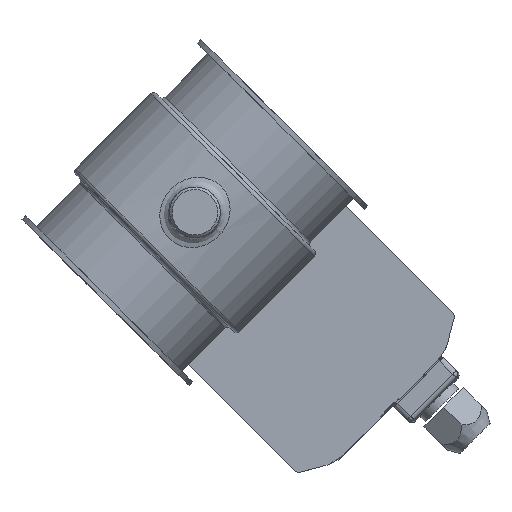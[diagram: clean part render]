
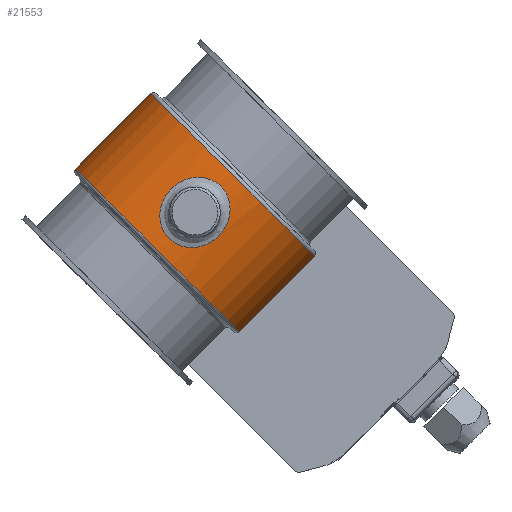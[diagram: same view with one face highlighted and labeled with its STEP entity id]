
A CAD part, top view. The second image highlights one B-rep face of the part: STEP entity #21553.
In plain terms, the highlighted cylindrical face has radius 45.5 mm (diameter 91 mm), a full revolution.
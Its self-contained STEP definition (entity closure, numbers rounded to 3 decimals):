
#21444=CARTESIAN_POINT('',(-53.695,50.041,43.545));
#21445=VERTEX_POINT('',#21444);
#21455=CARTESIAN_POINT('',(-53.697,50.041,43.543));
#21456=CARTESIAN_POINT('',(-53.697,50.041,43.543));
#21457=CARTESIAN_POINT('',(-53.697,50.041,43.543));
#21458=CARTESIAN_POINT('',(-53.697,50.041,43.543));
#21459=CARTESIAN_POINT('',(-53.697,47.872,43.543));
#21460=CARTESIAN_POINT('',(-52.787,43.526,43.834));
#21461=CARTESIAN_POINT('',(-49.03,38.344,44.78));
#21462=CARTESIAN_POINT('',(-43.58,35.426,45.528));
#21463=CARTESIAN_POINT('',(-37.455,35.417,45.532));
#21464=CARTESIAN_POINT('',(-31.99,38.327,44.782));
#21465=CARTESIAN_POINT('',(-28.646,42.923,43.945));
#21466=CARTESIAN_POINT('',(-27.258,47.815,43.532));
#21467=CARTESIAN_POINT('',(-27.255,52.242,43.529));
#21468=CARTESIAN_POINT('',(-28.83,57.849,44.004));
#21469=CARTESIAN_POINT('',(-32.539,62.232,44.908));
#21470=CARTESIAN_POINT('',(-38.116,64.658,45.53));
#21471=CARTESIAN_POINT('',(-43.556,64.662,45.529));
#21472=CARTESIAN_POINT('',(-49.013,61.747,44.782));
#21473=CARTESIAN_POINT('',(-52.779,56.583,43.837));
#21474=CARTESIAN_POINT('',(-53.697,52.21,43.543));
#21475=CARTESIAN_POINT('',(-53.697,50.041,43.543));
#21476=B_SPLINE_CURVE_WITH_KNOTS('',3,(#21455,#21456,#21457,#21458,#21459,#21460,#21461,#21462,#21463,#21464,#21465,#21466,#21467,#21468,#21469,#21470,#21471,#21472,#21473,#21474,#21475),.UNSPECIFIED.,.T.,.U.,(4,3,1,1,1,1,1,1,1,1,1,1,1,1,1,1,4),(-6.048,-6.048,-5.616,-5.184,-4.752,-4.32,-3.888,-3.456,-3.168,-2.88,-2.592,-2.016,-1.728,-1.296,-0.864,-0.432,0.),.UNSPECIFIED.);
#21477=EDGE_CURVE('',#21445,#21445,#21476,.T.);
#21482=CARTESIAN_POINT('',(-40.5,50.041,0.0));
#21483=DIRECTION('',(0.,-1.0,0.0));
#21484=DIRECTION('',(1.0,0.0,0.0));
#21485=AXIS2_PLACEMENT_3D('',#21482,#21483,#21484);
#21486=CYLINDRICAL_SURFACE('',#21485,45.5);
#21487=CARTESIAN_POINT('',(5.,71.041,0.0));
#21488=VERTEX_POINT('',#21487);
#21489=CARTESIAN_POINT('',(-40.5,71.041,0.0));
#21490=DIRECTION('',(0.0,-1.0,0.0));
#21491=DIRECTION('',(1.0,0.0,0.0));
#21492=AXIS2_PLACEMENT_3D('',#21489,#21490,#21491);
#21493=CIRCLE('',#21492,45.5);
#21494=EDGE_CURVE('',#21488,#21488,#21493,.T.);
#21495=ORIENTED_EDGE('',*,*,#21494,.T.);
#21496=EDGE_LOOP('',(#21495));
#21497=FACE_OUTER_BOUND('',#21496,.T.);
#21498=CARTESIAN_POINT('',(5.,29.041,0.0));
#21499=VERTEX_POINT('',#21498);
#21500=CARTESIAN_POINT('',(-40.5,29.041,0.0));
#21501=DIRECTION('',(0.0,-1.0,0.0));
#21502=DIRECTION('',(1.0,0.0,0.0));
#21503=AXIS2_PLACEMENT_3D('',#21500,#21501,#21502);
#21504=CIRCLE('',#21503,45.5);
#21505=EDGE_CURVE('',#21499,#21499,#21504,.T.);
#21506=ORIENTED_EDGE('',*,*,#21505,.F.);
#21507=EDGE_LOOP('',(#21506));
#21508=FACE_BOUND('',#21507,.T.);
#21509=CARTESIAN_POINT('',(-50.5,50.041,-44.387));
#21510=VERTEX_POINT('',#21509);
#21511=CARTESIAN_POINT('',(-50.5,50.041,-44.387));
#21512=CARTESIAN_POINT('',(-50.5,48.781,-44.387));
#21513=CARTESIAN_POINT('',(-50.247,47.44,-44.447));
#21514=CARTESIAN_POINT('',(-49.226,44.977,-44.659));
#21515=CARTESIAN_POINT('',(-48.457,43.856,-44.808));
#21516=CARTESIAN_POINT('',(-46.686,42.084,-45.086));
#21517=CARTESIAN_POINT('',(-45.564,41.316,-45.234));
#21518=CARTESIAN_POINT('',(-43.101,40.294,-45.442));
#21519=CARTESIAN_POINT('',(-41.76,40.041,-45.5));
#21520=CARTESIAN_POINT('',(-39.24,40.041,-45.5));
#21521=CARTESIAN_POINT('',(-37.899,40.294,-45.442));
#21522=CARTESIAN_POINT('',(-35.436,41.316,-45.234));
#21523=CARTESIAN_POINT('',(-34.314,42.084,-45.086));
#21524=CARTESIAN_POINT('',(-32.543,43.856,-44.808));
#21525=CARTESIAN_POINT('',(-31.774,44.977,-44.659));
#21526=CARTESIAN_POINT('',(-30.753,47.44,-44.447));
#21527=CARTESIAN_POINT('',(-30.5,48.781,-44.387));
#21528=CARTESIAN_POINT('',(-30.5,51.301,-44.387));
#21529=CARTESIAN_POINT('',(-30.753,52.642,-44.447));
#21530=CARTESIAN_POINT('',(-31.774,55.105,-44.659));
#21531=CARTESIAN_POINT('',(-32.543,56.227,-44.808));
#21532=CARTESIAN_POINT('',(-34.314,57.998,-45.086));
#21533=CARTESIAN_POINT('',(-35.436,58.767,-45.234));
#21534=CARTESIAN_POINT('',(-37.899,59.788,-45.442));
#21535=CARTESIAN_POINT('',(-39.24,60.041,-45.5));
#21536=CARTESIAN_POINT('',(-41.76,60.041,-45.5));
#21537=CARTESIAN_POINT('',(-43.101,59.788,-45.442));
#21538=CARTESIAN_POINT('',(-45.564,58.767,-45.234));
#21539=CARTESIAN_POINT('',(-46.686,57.998,-45.086));
#21540=CARTESIAN_POINT('',(-48.457,56.227,-44.808));
#21541=CARTESIAN_POINT('',(-49.226,55.105,-44.659));
#21542=CARTESIAN_POINT('',(-50.247,52.642,-44.447));
#21543=CARTESIAN_POINT('',(-50.5,51.301,-44.387));
#21544=CARTESIAN_POINT('',(-50.5,50.041,-44.387));
#21545=B_SPLINE_CURVE_WITH_KNOTS('',3,(#21511,#21512,#21513,#21514,#21515,#21516,#21517,#21518,#21519,#21520,#21521,#21522,#21523,#21524,#21525,#21526,#21527,#21528,#21529,#21530,#21531,#21532,#21533,#21534,#21535,#21536,#21537,#21538,#21539,#21540,#21541,#21542,#21543,#21544),.UNSPECIFIED.,.T.,.U.,(4,2,2,2,2,2,2,2,2,2,2,2,2,2,2,2,4),(0.0,0.378,0.756,1.134,1.512,1.89,2.268,2.646,3.024,3.402,3.78,4.158,4.536,4.914,5.292,5.67,6.048),.UNSPECIFIED.);
#21546=EDGE_CURVE('',#21510,#21510,#21545,.T.);
#21547=ORIENTED_EDGE('',*,*,#21546,.T.);
#21548=EDGE_LOOP('',(#21547));
#21549=FACE_BOUND('',#21548,.T.);
#21550=ORIENTED_EDGE('',*,*,#21477,.F.);
#21551=EDGE_LOOP('',(#21550));
#21552=FACE_BOUND('',#21551,.T.);
#21553=ADVANCED_FACE('',(#21497,#21508,#21549,#21552),#21486,.T.);
